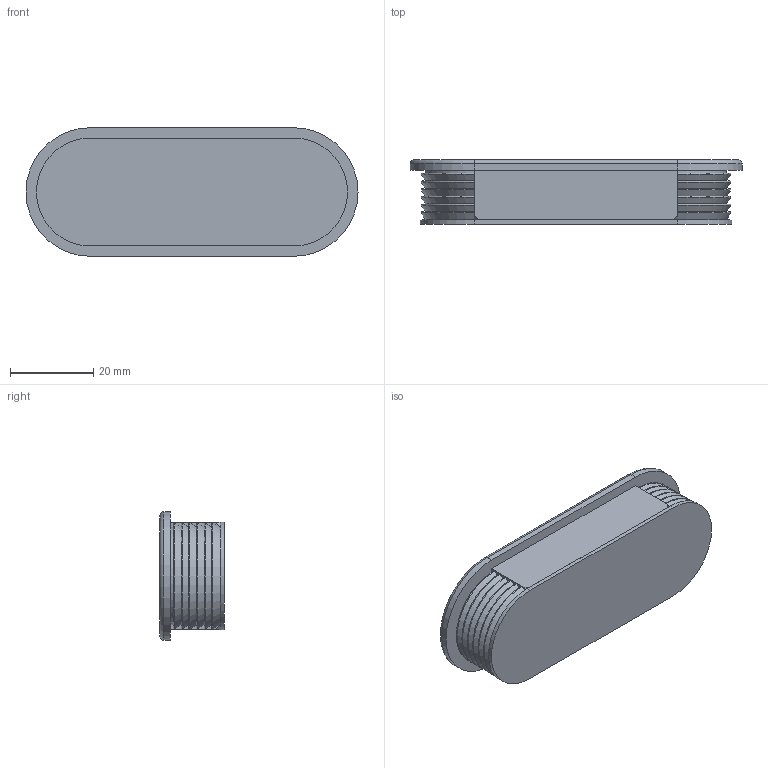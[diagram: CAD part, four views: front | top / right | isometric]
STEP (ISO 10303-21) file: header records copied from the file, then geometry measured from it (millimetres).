
FILE_DESCRIPTION (( 'STEP AP214' ), '1' );
FILE_NAME ('錨璃1.STEP', '2023-08-08T01:21:09', ( '' ), ( '' ), 'SwSTEP 2.0', 'SolidWorks 2019', '' );
FILE_SCHEMA (( 'AUTOMOTIVE_DESIGN' ));
Length unit declared in the file: millimetre
Products named in the file (1): 錨璃1
Bounding box: 80 x 15.5 x 31 mm (x, y, z)
Volume: 12120.2 mm3; surface area: 12044.5 mm2
Topology: 2 solids, 2 shells, 82 faces, 218 edges, 142 vertices
Faces by surface type: plane 38, cylinder 16, torus 16, cone 12
Entity records: 2625 total; most frequent: DIRECTION 480, CARTESIAN_POINT 443, ORIENTED_EDGE 436, EDGE_CURVE 218, AXIS2_PLACEMENT_3D 179, VERTEX_POINT 142, LINE 122, VECTOR 122
